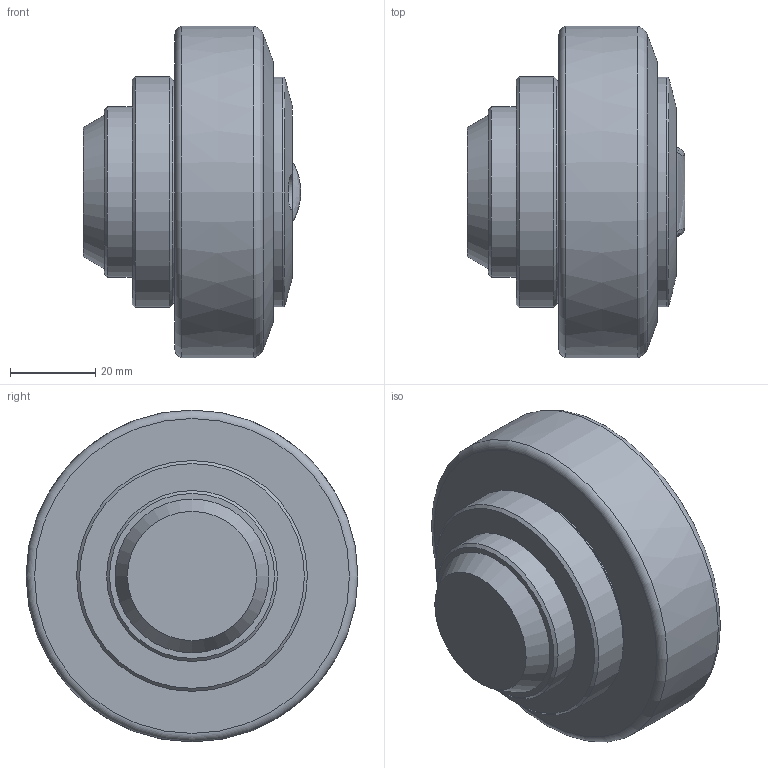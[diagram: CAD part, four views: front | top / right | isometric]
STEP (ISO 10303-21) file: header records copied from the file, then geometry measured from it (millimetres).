
FILE_DESCRIPTION(/* description */ (''),/* implementation_level */ '2;1');
FILE_NAME(/* name */ 'C:\Users\gabriele oddo\Desktop\400-0074.step',/* time_stamp */ '2023-07-26T08:18:41+02:00',/* author */ ('gabriele oddo'),/* organization */ (''),/* preprocessor_version */ 'ST-DEVELOPER v19',/* originating_system */ 'Autodesk Inventor 2023',/* authorisation */ '');
FILE_SCHEMA (('AUTOMOTIVE_DESIGN { 1 0 10303 214 3 1 1 }'));
Length unit declared in the file: millimetre
Products named in the file (1): 400-0074
Bounding box: 51 x 77.7 x 77.69 mm (x, y, z)
Volume: 149943.3 mm3; surface area: 17846.2 mm2
Topology: 1 solids, 1 shells, 42 faces, 98 edges, 66 vertices
Faces by surface type: plane 23, cylinder 6, cone 6, bspline 4, torus 3
Full cylindrical faces by diameter (mm): 8.5 x2, 40 x1, 52 x1, 53.8 x1, 54 x1
Entity records: 1583 total; most frequent: CARTESIAN_POINT 526, DIRECTION 202, ORIENTED_EDGE 196, EDGE_CURVE 98, AXIS2_PLACEMENT_3D 76, VERTEX_POINT 66, EDGE_LOOP 50, LINE 50
